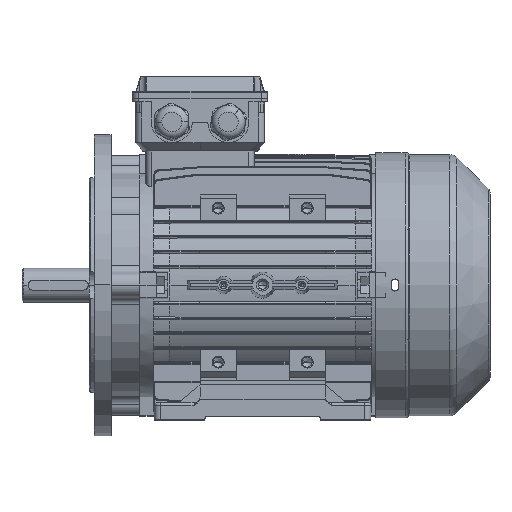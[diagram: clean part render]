
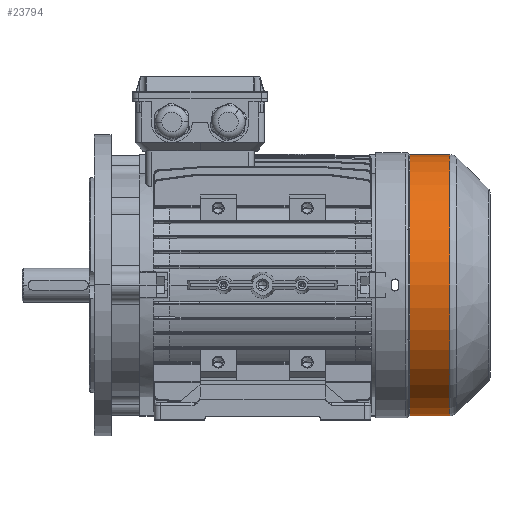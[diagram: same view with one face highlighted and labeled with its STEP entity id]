
A CAD part, top view. The second image highlights one B-rep face of the part: STEP entity #23794.
In plain terms, the highlighted cylindrical face has radius 108.5 mm (diameter 217 mm), a partial arc.
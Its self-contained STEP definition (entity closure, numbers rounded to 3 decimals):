
#2930 = CIRCLE ( 'NONE', #39828, 108.5 ) ;
#3633 = ORIENTED_EDGE ( 'NONE', *, *, #112300, .T. ) ;
#6579 = DIRECTION ( 'NONE',  ( 1., 0., 0. ) ) ;
#6920 = EDGE_CURVE ( 'NONE', #34704, #38187, #2930, .T. ) ;
#7552 = EDGE_CURVE ( 'NONE', #34704, #90248, #21582, .T. ) ;
#7584 = DIRECTION ( 'NONE',  ( 0., -1., 0. ) ) ;
#7887 = CARTESIAN_POINT ( 'NONE',  ( -61.699, 108.5, 0. ) ) ;
#8228 = ORIENTED_EDGE ( 'NONE', *, *, #7552, .F. ) ;
#8926 = CARTESIAN_POINT ( 'NONE',  ( -92., 108.5, 0. ) ) ;
#10528 = ORIENTED_EDGE ( 'NONE', *, *, #6920, .T. ) ;
#19222 = CARTESIAN_POINT ( 'NONE',  ( -61.699, 0., 0. ) ) ;
#20216 = DIRECTION ( 'NONE',  ( -1., 0., 0. ) ) ;
#20429 = AXIS2_PLACEMENT_3D ( 'NONE', #70784, #20216, #7584 ) ;
#20440 = EDGE_LOOP ( 'NONE', ( #8228, #10528, #3633, #48477 ) ) ;
#21582 = LINE ( 'NONE', #8926, #67962 ) ;
#23794 = ADVANCED_FACE ( 'NONE', ( #108750 ), #121450, .T. ) ;
#24849 = CARTESIAN_POINT ( 'NONE',  ( -61.699, -108.5, 0. ) ) ;
#31240 = AXIS2_PLACEMENT_3D ( 'NONE', #19222, #6579, #117294 ) ;
#34704 = VERTEX_POINT ( 'NONE', #67824 ) ;
#36657 = LINE ( 'NONE', #58975, #72679 ) ;
#38187 = VERTEX_POINT ( 'NONE', #48926 ) ;
#39828 = AXIS2_PLACEMENT_3D ( 'NONE', #82879, #70256, #57595 ) ;
#45148 = VERTEX_POINT ( 'NONE', #24849 ) ;
#46309 = DIRECTION ( 'NONE',  ( -1., 0., 0. ) ) ;
#48477 = ORIENTED_EDGE ( 'NONE', *, *, #53927, .T. ) ;
#48926 = CARTESIAN_POINT ( 'NONE',  ( -28.164, -108.5, 0. ) ) ;
#53927 = EDGE_CURVE ( 'NONE', #45148, #90248, #114748, .T. ) ;
#57595 = DIRECTION ( 'NONE',  ( 0., -1., 0. ) ) ;
#58975 = CARTESIAN_POINT ( 'NONE',  ( -92., -108.5, 0. ) ) ;
#67824 = CARTESIAN_POINT ( 'NONE',  ( -28.164, 108.5, 0. ) ) ;
#67962 = VECTOR ( 'NONE', #119611, 1000. ) ;
#70256 = DIRECTION ( 'NONE',  ( -1., 0., 0. ) ) ;
#70784 = CARTESIAN_POINT ( 'NONE',  ( -92., 0., 0. ) ) ;
#72679 = VECTOR ( 'NONE', #46309, 1000. ) ;
#82879 = CARTESIAN_POINT ( 'NONE',  ( -28.164, 0., 0. ) ) ;
#90248 = VERTEX_POINT ( 'NONE', #7887 ) ;
#108750 = FACE_OUTER_BOUND ( 'NONE', #20440, .T. ) ;
#112300 = EDGE_CURVE ( 'NONE', #38187, #45148, #36657, .T. ) ;
#114748 = CIRCLE ( 'NONE', #31240, 108.5 ) ;
#117294 = DIRECTION ( 'NONE',  ( 0., 1., 0. ) ) ;
#119611 = DIRECTION ( 'NONE',  ( -1., 0., 0. ) ) ;
#121450 = CYLINDRICAL_SURFACE ( 'NONE', #20429, 108.5 ) ;
